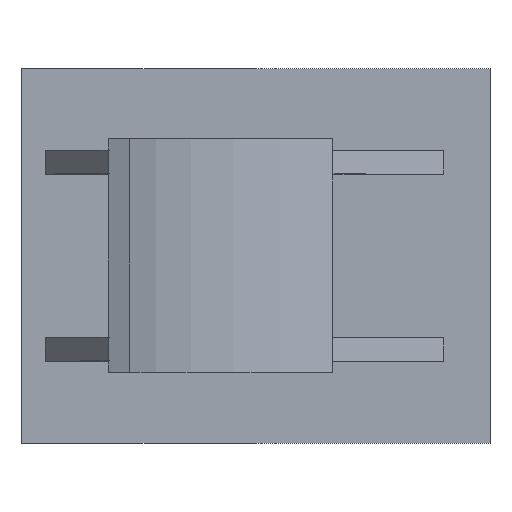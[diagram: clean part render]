
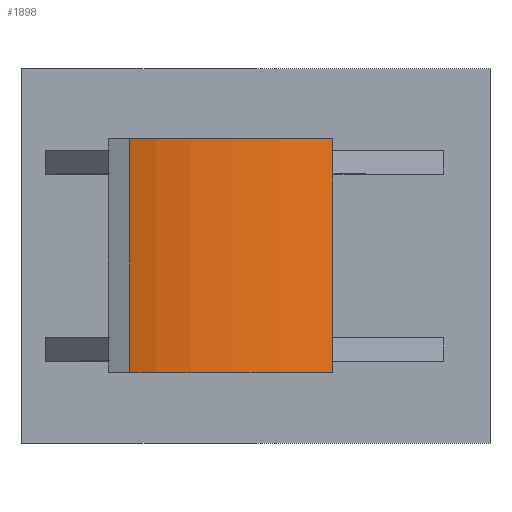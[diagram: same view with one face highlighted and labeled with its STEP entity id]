
A CAD part, top view. The second image highlights one B-rep face of the part: STEP entity #1898.
In plain terms, the highlighted cylindrical face has radius 160.5 mm (diameter 321 mm), a partial arc.
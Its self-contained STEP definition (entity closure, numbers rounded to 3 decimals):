
#820 = PLANE('',#821);
#821 = AXIS2_PLACEMENT_3D('',#822,#823,#824);
#822 = CARTESIAN_POINT('',(-43.221,0.,-504.248));
#823 = DIRECTION('',(-0.383,0.,0.924));
#824 = DIRECTION('',(0.924,0.,0.383));
#909 = PLANE('',#910);
#910 = AXIS2_PLACEMENT_3D('',#911,#912,#913);
#911 = CARTESIAN_POINT('',(52.879,0.,-587.283));
#912 = DIRECTION('',(0.924,0.,-0.383));
#913 = DIRECTION('',(-0.383,0.,-0.924));
#1424 = VERTEX_POINT('',#1425);
#1425 = CARTESIAN_POINT('',(-33.983,-50.,-500.421));
#1439 = PLANE('',#1440);
#1440 = AXIS2_PLACEMENT_3D('',#1441,#1442,#1443);
#1441 = CARTESIAN_POINT('',(1.192,-50.,-552.108));
#1442 = DIRECTION('',(0.,1.,0.));
#1443 = DIRECTION('',(0.,-0.,1.));
#1451 = EDGE_CURVE('',#1452,#1424,#1454,.T.);
#1452 = VERTEX_POINT('',#1453);
#1453 = CARTESIAN_POINT('',(-33.983,50.,-500.421));
#1454 = SURFACE_CURVE('',#1455,(#1459,#1466),.PCURVE_S1.);
#1455 = LINE('',#1456,#1457);
#1456 = CARTESIAN_POINT('',(-33.983,50.,-500.421));
#1457 = VECTOR('',#1458,1.);
#1458 = DIRECTION('',(0.,-1.,0.));
#1459 = PCURVE('',#820,#1460);
#1460 = DEFINITIONAL_REPRESENTATION('',(#1461),#1465);
#1461 = LINE('',#1462,#1463);
#1462 = CARTESIAN_POINT('',(10.,50.));
#1463 = VECTOR('',#1464,1.);
#1464 = DIRECTION('',(0.,-1.));
#1465 = ( GEOMETRIC_REPRESENTATION_CONTEXT(2) 
PARAMETRIC_REPRESENTATION_CONTEXT() REPRESENTATION_CONTEXT('2D SPACE',''
  ) );
#1466 = PCURVE('',#1467,#1472);
#1467 = CYLINDRICAL_SURFACE('',#1468,160.5);
#1468 = AXIS2_PLACEMENT_3D('',#1469,#1470,#1471);
#1469 = CARTESIAN_POINT('',(114.3,0.,-439.));
#1470 = DIRECTION('',(-0.,1.,-0.));
#1471 = DIRECTION('',(-0.924,-0.,-0.383));
#1472 = DEFINITIONAL_REPRESENTATION('',(#1473),#1477);
#1473 = LINE('',#1474,#1475);
#1474 = CARTESIAN_POINT('',(-0.,50.));
#1475 = VECTOR('',#1476,1.);
#1476 = DIRECTION('',(-0.,-1.));
#1477 = ( GEOMETRIC_REPRESENTATION_CONTEXT(2) 
PARAMETRIC_REPRESENTATION_CONTEXT() REPRESENTATION_CONTEXT('2D SPACE',''
  ) );
#1495 = PLANE('',#1496);
#1496 = AXIS2_PLACEMENT_3D('',#1497,#1498,#1499);
#1497 = CARTESIAN_POINT('',(1.192,50.,-552.108));
#1498 = DIRECTION('',(0.,1.,0.));
#1499 = DIRECTION('',(0.,-0.,1.));
#1605 = EDGE_CURVE('',#1606,#1608,#1610,.T.);
#1606 = VERTEX_POINT('',#1607);
#1607 = CARTESIAN_POINT('',(52.879,-50.,-587.283));
#1608 = VERTEX_POINT('',#1609);
#1609 = CARTESIAN_POINT('',(52.879,50.,-587.283));
#1610 = SURFACE_CURVE('',#1611,(#1615,#1622),.PCURVE_S1.);
#1611 = LINE('',#1612,#1613);
#1612 = CARTESIAN_POINT('',(52.879,-50.,-587.283));
#1613 = VECTOR('',#1614,1.);
#1614 = DIRECTION('',(0.,1.,0.));
#1615 = PCURVE('',#909,#1616);
#1616 = DEFINITIONAL_REPRESENTATION('',(#1617),#1621);
#1617 = LINE('',#1618,#1619);
#1618 = CARTESIAN_POINT('',(-0.,-50.));
#1619 = VECTOR('',#1620,1.);
#1620 = DIRECTION('',(0.,1.));
#1621 = ( GEOMETRIC_REPRESENTATION_CONTEXT(2) 
PARAMETRIC_REPRESENTATION_CONTEXT() REPRESENTATION_CONTEXT('2D SPACE',''
  ) );
#1622 = PCURVE('',#1467,#1623);
#1623 = DEFINITIONAL_REPRESENTATION('',(#1624),#1628);
#1624 = LINE('',#1625,#1626);
#1625 = CARTESIAN_POINT('',(-0.785,-50.));
#1626 = VECTOR('',#1627,1.);
#1627 = DIRECTION('',(0.,1.));
#1628 = ( GEOMETRIC_REPRESENTATION_CONTEXT(2) 
PARAMETRIC_REPRESENTATION_CONTEXT() REPRESENTATION_CONTEXT('2D SPACE',''
  ) );
#1870 = EDGE_CURVE('',#1424,#1606,#1871,.T.);
#1871 = SURFACE_CURVE('',#1872,(#1877,#1888),.PCURVE_S1.);
#1872 = CIRCLE('',#1873,160.5);
#1873 = AXIS2_PLACEMENT_3D('',#1874,#1875,#1876);
#1874 = CARTESIAN_POINT('',(114.3,-50.,-439.));
#1875 = DIRECTION('',(0.,-1.,0.));
#1876 = DIRECTION('',(-0.924,-0.,-0.383));
#1877 = PCURVE('',#1439,#1878);
#1878 = DEFINITIONAL_REPRESENTATION('',(#1879),#1887);
#1879 = ( BOUNDED_CURVE() B_SPLINE_CURVE(2,(#1880,#1881,#1882,#1883,
#1884,#1885,#1886),.UNSPECIFIED.,.T.,.F.) B_SPLINE_CURVE_WITH_KNOTS((1,2
    ,2,2,2,1),(-2.094,0.,2.094,4.189,
6.283,8.378),.UNSPECIFIED.) CURVE() 
GEOMETRIC_REPRESENTATION_ITEM() RATIONAL_B_SPLINE_CURVE((1.,0.5,1.,0.5,
1.,0.5,1.)) REPRESENTATION_ITEM('') );
#1880 = CARTESIAN_POINT('',(51.687,-35.175));
#1881 = CARTESIAN_POINT('',(-205.146,71.209));
#1882 = CARTESIAN_POINT('',(15.402,240.441));
#1883 = CARTESIAN_POINT('',(235.949,409.673));
#1884 = CARTESIAN_POINT('',(272.235,134.057));
#1885 = CARTESIAN_POINT('',(308.52,-141.559));
#1886 = CARTESIAN_POINT('',(51.687,-35.175));
#1887 = ( GEOMETRIC_REPRESENTATION_CONTEXT(2) 
PARAMETRIC_REPRESENTATION_CONTEXT() REPRESENTATION_CONTEXT('2D SPACE',''
  ) );
#1888 = PCURVE('',#1467,#1889);
#1889 = DEFINITIONAL_REPRESENTATION('',(#1890),#1894);
#1890 = LINE('',#1891,#1892);
#1891 = CARTESIAN_POINT('',(-0.,-50.));
#1892 = VECTOR('',#1893,1.);
#1893 = DIRECTION('',(-1.,0.));
#1894 = ( GEOMETRIC_REPRESENTATION_CONTEXT(2) 
PARAMETRIC_REPRESENTATION_CONTEXT() REPRESENTATION_CONTEXT('2D SPACE',''
  ) );
#1898 = ADVANCED_FACE('',(#1899),#1467,.F.);
#1899 = FACE_BOUND('',#1900,.T.);
#1900 = EDGE_LOOP('',(#1901,#1902,#1903,#1929));
#1901 = ORIENTED_EDGE('',*,*,#1870,.T.);
#1902 = ORIENTED_EDGE('',*,*,#1605,.T.);
#1903 = ORIENTED_EDGE('',*,*,#1904,.F.);
#1904 = EDGE_CURVE('',#1452,#1608,#1905,.T.);
#1905 = SURFACE_CURVE('',#1906,(#1911,#1918),.PCURVE_S1.);
#1906 = CIRCLE('',#1907,160.5);
#1907 = AXIS2_PLACEMENT_3D('',#1908,#1909,#1910);
#1908 = CARTESIAN_POINT('',(114.3,50.,-439.));
#1909 = DIRECTION('',(0.,-1.,0.));
#1910 = DIRECTION('',(-0.924,-0.,-0.383));
#1911 = PCURVE('',#1467,#1912);
#1912 = DEFINITIONAL_REPRESENTATION('',(#1913),#1917);
#1913 = LINE('',#1914,#1915);
#1914 = CARTESIAN_POINT('',(0.,50.));
#1915 = VECTOR('',#1916,1.);
#1916 = DIRECTION('',(-1.,-0.));
#1917 = ( GEOMETRIC_REPRESENTATION_CONTEXT(2) 
PARAMETRIC_REPRESENTATION_CONTEXT() REPRESENTATION_CONTEXT('2D SPACE',''
  ) );
#1918 = PCURVE('',#1495,#1919);
#1919 = DEFINITIONAL_REPRESENTATION('',(#1920),#1928);
#1920 = ( BOUNDED_CURVE() B_SPLINE_CURVE(2,(#1921,#1922,#1923,#1924,
#1925,#1926,#1927),.UNSPECIFIED.,.T.,.F.) B_SPLINE_CURVE_WITH_KNOTS((1,2
    ,2,2,2,1),(-2.094,0.,2.094,4.189,
6.283,8.378),.UNSPECIFIED.) CURVE() 
GEOMETRIC_REPRESENTATION_ITEM() RATIONAL_B_SPLINE_CURVE((1.,0.5,1.,0.5,
1.,0.5,1.)) REPRESENTATION_ITEM('') );
#1921 = CARTESIAN_POINT('',(51.687,-35.175));
#1922 = CARTESIAN_POINT('',(-205.146,71.209));
#1923 = CARTESIAN_POINT('',(15.402,240.441));
#1924 = CARTESIAN_POINT('',(235.949,409.673));
#1925 = CARTESIAN_POINT('',(272.235,134.057));
#1926 = CARTESIAN_POINT('',(308.52,-141.559));
#1927 = CARTESIAN_POINT('',(51.687,-35.175));
#1928 = ( GEOMETRIC_REPRESENTATION_CONTEXT(2) 
PARAMETRIC_REPRESENTATION_CONTEXT() REPRESENTATION_CONTEXT('2D SPACE',''
  ) );
#1929 = ORIENTED_EDGE('',*,*,#1451,.T.);
